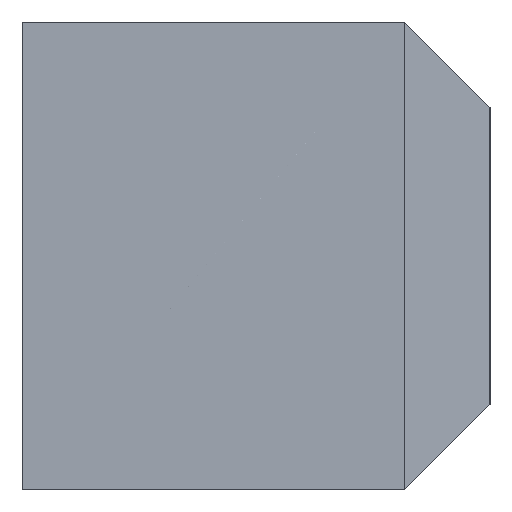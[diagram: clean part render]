
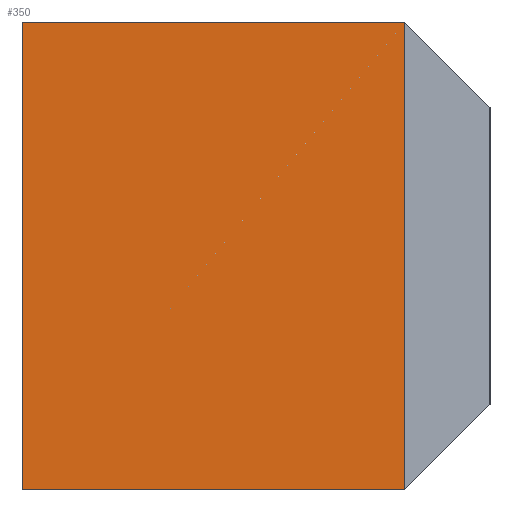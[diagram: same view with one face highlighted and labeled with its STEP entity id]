
A CAD part, left-side view. The second image highlights one B-rep face of the part: STEP entity #350.
In plain terms, the highlighted planar face has unit normal (-1, 0, 0).
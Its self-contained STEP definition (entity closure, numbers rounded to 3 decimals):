
#57=CARTESIAN_POINT('Line Origine',(-50.,22.,0.)) ;
#61=CARTESIAN_POINT('Vertex',(-50.,22.,-11.)) ;
#63=CARTESIAN_POINT('Vertex',(-50.,22.,11.)) ;
#320=CARTESIAN_POINT('Axis2P3D Location',(-50.,0.,0.)) ;
#325=CARTESIAN_POINT('Line Origine',(-50.,4.,0.)) ;
#329=CARTESIAN_POINT('Vertex',(-50.,4.,11.)) ;
#331=CARTESIAN_POINT('Vertex',(-50.,4.,-11.)) ;
#334=CARTESIAN_POINT('Line Origine',(-50.,13.,11.)) ;
#339=CARTESIAN_POINT('Line Origine',(-50.,13.,-11.)) ;
#58=DIRECTION('Vector Direction',(0.,0.,1.)) ;
#321=DIRECTION('Axis2P3D Direction',(1.,0.,0.)) ;
#322=DIRECTION('Axis2P3D XDirection',(0.,0.,-1.)) ;
#326=DIRECTION('Vector Direction',(0.,0.,-1.)) ;
#335=DIRECTION('Vector Direction',(0.,-1.,0.)) ;
#340=DIRECTION('Vector Direction',(0.,1.,0.)) ;
#323=AXIS2_PLACEMENT_3D('Plane Axis2P3D',#320,#321,#322) ;
#345=ORIENTED_EDGE('',*,*,#333,.F.) ;
#346=ORIENTED_EDGE('',*,*,#338,.F.) ;
#347=ORIENTED_EDGE('',*,*,#65,.F.) ;
#348=ORIENTED_EDGE('',*,*,#343,.F.) ;
#59=VECTOR('Line Direction',#58,1.) ;
#327=VECTOR('Line Direction',#326,1.) ;
#336=VECTOR('Line Direction',#335,1.) ;
#341=VECTOR('Line Direction',#340,1.) ;
#350=ADVANCED_FACE('761-022100',(#349),#324,.F.) ;
#65=EDGE_CURVE('',#62,#64,#60,.T.) ;
#333=EDGE_CURVE('',#330,#332,#328,.T.) ;
#338=EDGE_CURVE('',#64,#330,#337,.T.) ;
#343=EDGE_CURVE('',#332,#62,#342,.T.) ;
#344=EDGE_LOOP('',(#345,#346,#347,#348)) ;
#349=FACE_OUTER_BOUND('',#344,.T.) ;
#60=LINE('Line',#57,#59) ;
#328=LINE('Line',#325,#327) ;
#337=LINE('Line',#334,#336) ;
#342=LINE('Line',#339,#341) ;
#324=PLANE('Plane',#323) ;
#62=VERTEX_POINT('',#61) ;
#64=VERTEX_POINT('',#63) ;
#330=VERTEX_POINT('',#329) ;
#332=VERTEX_POINT('',#331) ;
